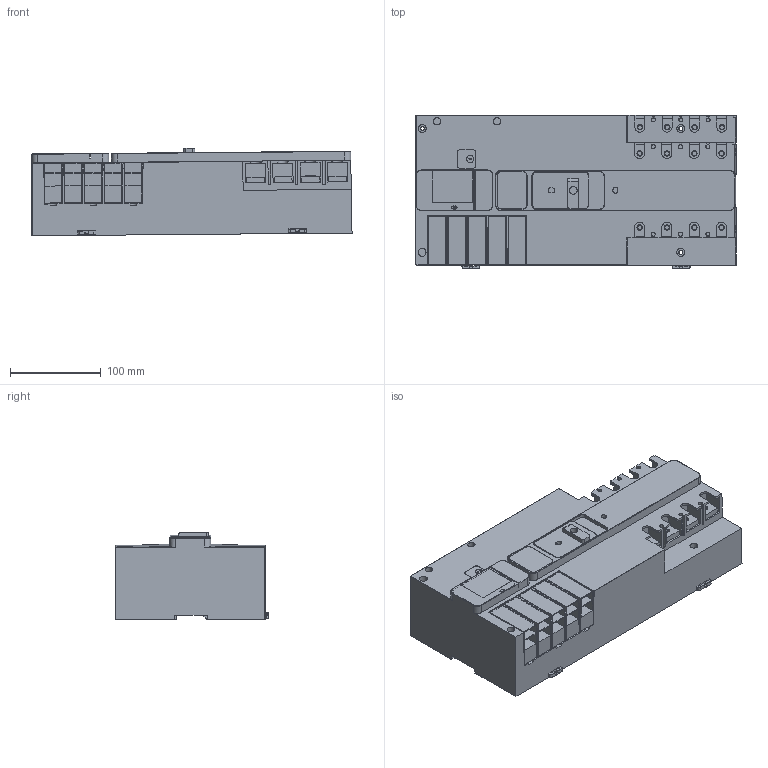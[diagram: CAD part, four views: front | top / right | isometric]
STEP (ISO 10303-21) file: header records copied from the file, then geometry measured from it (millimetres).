
FILE_DESCRIPTION((''),'2;1');
FILE_NAME('R2_IEC_4P_RS_3D_SIMPLIFIED_ASM','2021-12-08T14:24:49',('SESA530330'),('Schneider-Electric'),'CREO PARAMETRIC BY PTC INC, 2019471','CREO PARAMETRIC BY PTC INC, 2019471','');
FILE_SCHEMA(('CONFIG_CONTROL_DESIGN'));
Length unit declared in the file: millimetre
Products named in the file (3): R2_IEC_4P_RS_3D-SIMPLIFED_1; R2_IEC_4P_RS_3D-SIMPLIFIED_ASM__ASM; R2_IEC_4P_RS_3D_SIMPLIFIED_ASM
Assembly tree (2 placements, depth 3):
  R2_IEC_4P_RS_3D_SIMPLIFIED_ASM
    R2_IEC_4P_RS_3D-SIMPLIFIED_ASM__ASM
      R2_IEC_4P_RS_3D-SIMPLIFED_1
Bounding box: 351.73 x 168.22 x 96.3 mm (x, y, z)
Volume: 4210227.7 mm3; surface area: 315815.2 mm2
Topology: 1 solids, 1 shells, 1398 faces, 3704 edges, 2365 vertices
Faces by surface type: plane 698, cylinder 517, torus 110, extrusion 32, sphere 23, bspline 14, cone 4
Entity records: 44384 total; most frequent: CARTESIAN_POINT 9121, DIRECTION 7370, ORIENTED_EDGE 7362, EDGE_CURVE 3681, AXIS2_PLACEMENT_3D 2482, VECTOR 2406, LINE 2374, VERTEX_POINT 2365
